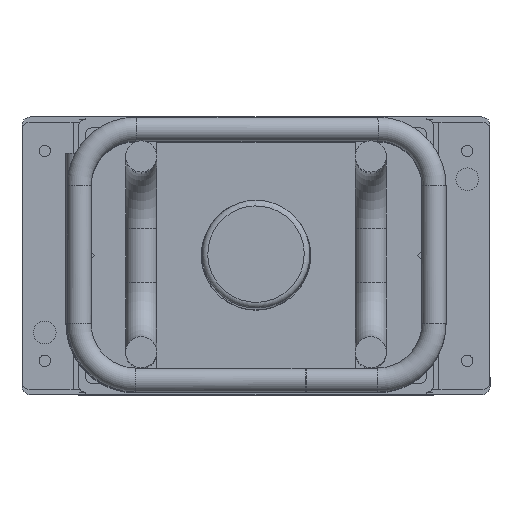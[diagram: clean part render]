
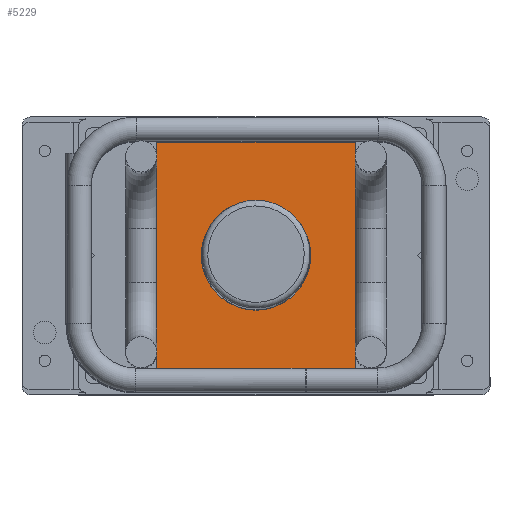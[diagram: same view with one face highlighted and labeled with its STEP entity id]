
A CAD part, top view. The second image highlights one B-rep face of the part: STEP entity #5229.
In plain terms, the highlighted planar face has unit normal (0, 0, 1).
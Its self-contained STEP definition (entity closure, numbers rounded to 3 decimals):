
#21=FACE_BOUND('',#591,.T.);
#71=PLANE('',#5668);
#305=FACE_OUTER_BOUND('',#590,.T.);
#590=EDGE_LOOP('',(#3605,#3606,#3607,#3608,#3609,#3610,#3611,#3612));
#591=EDGE_LOOP('',(#3613));
#971=CIRCLE('',#5669,19.3);
#1182=LINE('',#8020,#1634);
#1183=LINE('',#8022,#1635);
#1184=LINE('',#8024,#1636);
#1185=LINE('',#8026,#1637);
#1186=LINE('',#8028,#1638);
#1187=LINE('',#8030,#1639);
#1188=LINE('',#8032,#1640);
#1189=LINE('',#8033,#1641);
#1634=VECTOR('',#6476,10.);
#1635=VECTOR('',#6477,10.);
#1636=VECTOR('',#6478,10.);
#1637=VECTOR('',#6479,10.);
#1638=VECTOR('',#6480,10.);
#1639=VECTOR('',#6481,10.);
#1640=VECTOR('',#6482,10.);
#1641=VECTOR('',#6483,10.);
#2160=VERTEX_POINT('',#8018);
#2161=VERTEX_POINT('',#8019);
#2162=VERTEX_POINT('',#8021);
#2163=VERTEX_POINT('',#8023);
#2164=VERTEX_POINT('',#8025);
#2165=VERTEX_POINT('',#8027);
#2166=VERTEX_POINT('',#8029);
#2167=VERTEX_POINT('',#8031);
#2168=VERTEX_POINT('',#8034);
#2690=EDGE_CURVE('',#2160,#2161,#1182,.T.);
#2691=EDGE_CURVE('',#2161,#2162,#1183,.T.);
#2692=EDGE_CURVE('',#2162,#2163,#1184,.T.);
#2693=EDGE_CURVE('',#2163,#2164,#1185,.T.);
#2694=EDGE_CURVE('',#2164,#2165,#1186,.T.);
#2695=EDGE_CURVE('',#2165,#2166,#1187,.T.);
#2696=EDGE_CURVE('',#2166,#2167,#1188,.T.);
#2697=EDGE_CURVE('',#2167,#2160,#1189,.T.);
#2698=EDGE_CURVE('',#2168,#2168,#971,.T.);
#3605=ORIENTED_EDGE('',*,*,#2690,.T.);
#3606=ORIENTED_EDGE('',*,*,#2691,.T.);
#3607=ORIENTED_EDGE('',*,*,#2692,.T.);
#3608=ORIENTED_EDGE('',*,*,#2693,.T.);
#3609=ORIENTED_EDGE('',*,*,#2694,.T.);
#3610=ORIENTED_EDGE('',*,*,#2695,.T.);
#3611=ORIENTED_EDGE('',*,*,#2696,.T.);
#3612=ORIENTED_EDGE('',*,*,#2697,.T.);
#3613=ORIENTED_EDGE('',*,*,#2698,.T.);
#5229=ADVANCED_FACE('',(#305,#21),#71,.T.);
#5668=AXIS2_PLACEMENT_3D('',#8017,#6474,#6475);
#5669=AXIS2_PLACEMENT_3D('',#8035,#6484,#6485);
#6474=DIRECTION('center_axis',(0.,0.,
1.));
#6475=DIRECTION('ref_axis',(1.,0.,0.));
#6476=DIRECTION('',(1.,0.,0.));
#6477=DIRECTION('',(0.,1.,0.));
#6478=DIRECTION('',(0.,1.,0.));
#6479=DIRECTION('',(0.,1.,0.));
#6480=DIRECTION('',(-1.,0.,0.));
#6481=DIRECTION('',(0.,-1.,0.));
#6482=DIRECTION('',(0.,-1.,0.));
#6483=DIRECTION('',(0.,-1.,0.));
#6484=DIRECTION('center_axis',(0.,0.,
-1.));
#6485=DIRECTION('ref_axis',(-1.,0.,0.));
#8017=CARTESIAN_POINT('Origin',(0.,0.,
80.));
#8018=CARTESIAN_POINT('',(-35.,-40.,80.));
#8019=CARTESIAN_POINT('',(35.,-40.,80.));
#8020=CARTESIAN_POINT('',(-35.,-40.,80.));
#8021=CARTESIAN_POINT('',(35.,-20.397,80.));
#8022=CARTESIAN_POINT('',(35.,-40.,80.));
#8023=CARTESIAN_POINT('',(35.,20.397,80.));
#8024=CARTESIAN_POINT('',(35.,-40.,80.));
#8025=CARTESIAN_POINT('',(35.,40.,80.));
#8026=CARTESIAN_POINT('',(35.,-40.,80.));
#8027=CARTESIAN_POINT('',(-35.,40.,80.));
#8028=CARTESIAN_POINT('',(35.,40.,80.));
#8029=CARTESIAN_POINT('',(-35.,20.397,80.));
#8030=CARTESIAN_POINT('',(-35.,40.,80.));
#8031=CARTESIAN_POINT('',(-35.,-20.397,80.));
#8032=CARTESIAN_POINT('',(-35.,40.,80.));
#8033=CARTESIAN_POINT('',(-35.,40.,80.));
#8034=CARTESIAN_POINT('',(19.3,0.,80.));
#8035=CARTESIAN_POINT('Origin',(0.,0.,
80.));
